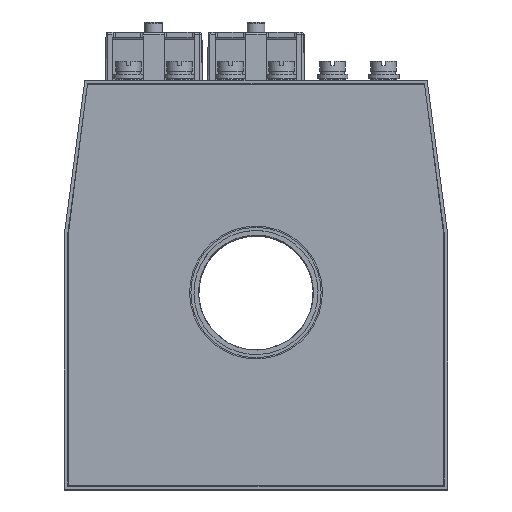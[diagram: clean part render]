
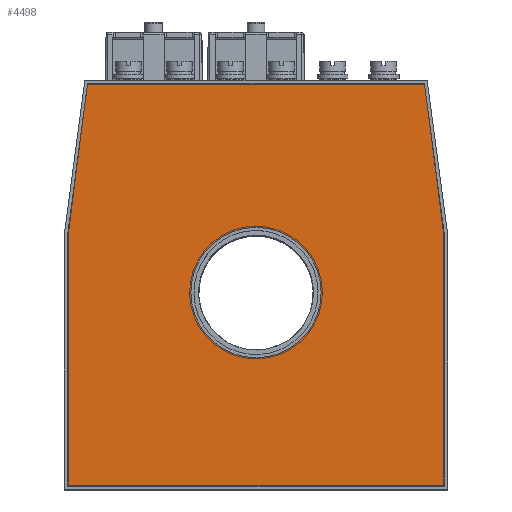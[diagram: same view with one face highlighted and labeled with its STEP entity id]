
A CAD part, top view. The second image highlights one B-rep face of the part: STEP entity #4498.
In plain terms, the highlighted planar face has unit normal (0, 0, 1).
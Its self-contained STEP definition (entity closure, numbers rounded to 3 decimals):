
#4498=ADVANCED_FACE('',(#7979,#7981),#7983,.T.);
#7979=FACE_BOUND('',#7980,.T.);
#7980=EDGE_LOOP('',(#9404,#9405,#9406,#9407,#9408,#9409));
#7981=FACE_BOUND('',#7982,.T.);
#7982=EDGE_LOOP('',(#9410));
#7983=PLANE('',#7984);
#7984=AXIS2_PLACEMENT_3D('',#7985,#7986,#7987);
#7985=CARTESIAN_POINT('',(0.,0.,5.));
#7986=DIRECTION('',(0.,0.,1.));
#7987=DIRECTION('',(1.,0.,0.));
#9404=ORIENTED_EDGE('',*,*,#10123,.T.);
#9405=ORIENTED_EDGE('',*,*,#10124,.T.);
#9406=ORIENTED_EDGE('',*,*,#10125,.T.);
#9407=ORIENTED_EDGE('',*,*,#10126,.T.);
#9408=ORIENTED_EDGE('',*,*,#10127,.T.);
#9409=ORIENTED_EDGE('',*,*,#10128,.T.);
#9410=ORIENTED_EDGE('',*,*,#10129,.T.);
#10123=EDGE_CURVE('',#11308,#11309,#11310,.T.);
#10124=EDGE_CURVE('',#11309,#11311,#11312,.T.);
#10125=EDGE_CURVE('',#11311,#11313,#11314,.T.);
#10126=EDGE_CURVE('',#11313,#11315,#11316,.T.);
#10127=EDGE_CURVE('',#11315,#11317,#11318,.T.);
#10128=EDGE_CURVE('',#11317,#11308,#11319,.T.);
#10129=EDGE_CURVE('',#11320,#11320,#11321,.F.);
#11308=VERTEX_POINT('',#14346);
#11309=VERTEX_POINT('',#14347);
#11310=LINE('',#14348,#14349);
#11311=VERTEX_POINT('',#14351);
#11312=LINE('',#14352,#14353);
#11313=VERTEX_POINT('',#14355);
#11314=LINE('',#14356,#14357);
#11315=VERTEX_POINT('',#14359);
#11316=LINE('',#14360,#14361);
#11317=VERTEX_POINT('',#14363);
#11318=LINE('',#14364,#14365);
#11319=LINE('',#14367,#14368);
#11320=VERTEX_POINT('',#14370);
#11321=CIRCLE('',#14371,25.5);
#14346=CARTESIAN_POINT('',(-73.5,19.815,5.));
#14347=CARTESIAN_POINT('',(-73.5,-78.5,5.));
#14348=CARTESIAN_POINT('',(-73.5,19.815,5.));
#14349=VECTOR('',#14350,1.);
#14350=DIRECTION('',(0.,-1.,0.));
#14351=CARTESIAN_POINT('',(73.5,-78.5,5.));
#14352=CARTESIAN_POINT('',(-73.5,-78.5,5.));
#14353=VECTOR('',#14354,1.);
#14354=DIRECTION('',(1.,0.,0.));
#14355=CARTESIAN_POINT('',(73.5,19.815,5.));
#14356=CARTESIAN_POINT('',(73.5,-78.5,5.));
#14357=VECTOR('',#14358,1.);
#14358=DIRECTION('',(0.,1.,0.));
#14359=CARTESIAN_POINT('',(66.,78.5,5.));
#14360=CARTESIAN_POINT('',(73.5,19.815,5.));
#14361=VECTOR('',#14362,1.);
#14362=DIRECTION('',(-0.127,0.992,0.));
#14363=CARTESIAN_POINT('',(-66.,78.5,5.));
#14364=CARTESIAN_POINT('',(66.,78.5,5.));
#14365=VECTOR('',#14366,1.);
#14366=DIRECTION('',(-1.,0.,0.));
#14367=CARTESIAN_POINT('',(-66.,78.5,5.));
#14368=VECTOR('',#14369,1.);
#14369=DIRECTION('',(-0.127,-0.992,0.));
#14370=CARTESIAN_POINT('',(25.5,-3.,5.));
#14371=AXIS2_PLACEMENT_3D('',#14372,#14373,#14374);
#14372=CARTESIAN_POINT('',(0.,-3.,5.));
#14373=DIRECTION('',(0.,0.,1.));
#14374=DIRECTION('',(1.,0.,0.));
